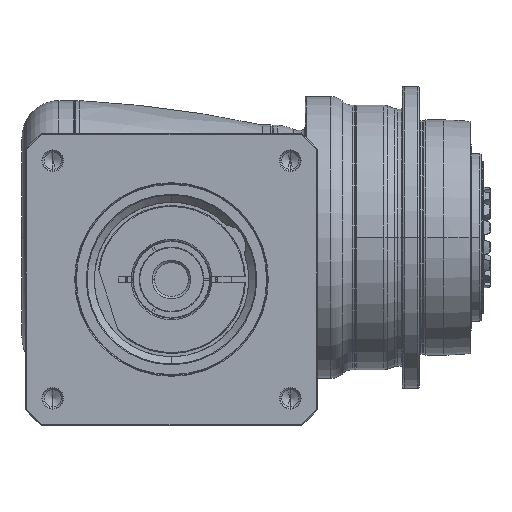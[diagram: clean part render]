
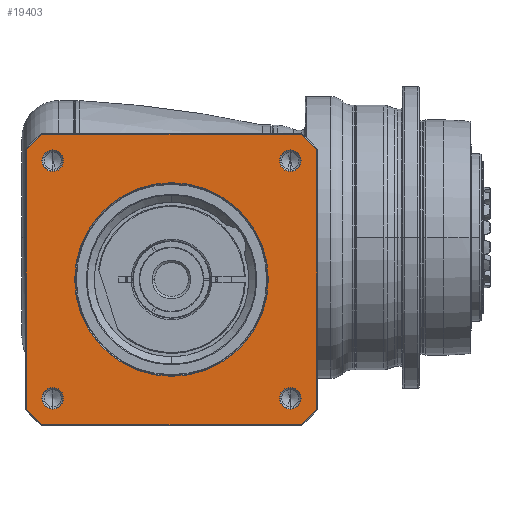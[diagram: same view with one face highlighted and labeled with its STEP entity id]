
A CAD part, front view. The second image highlights one B-rep face of the part: STEP entity #19403.
In plain terms, the highlighted planar face has unit normal (0, -1, 0) as drawn and (0, 0, 1) by its records, which use the part's own axes.
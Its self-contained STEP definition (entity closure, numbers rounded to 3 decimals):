
#18154=CARTESIAN_POINT('',(0.,0.,
76.));
#18155=DIRECTION('',(0.,0.,-1.));
#18156=DIRECTION('',(0.,-1.,0.));
#18157=AXIS2_PLACEMENT_3D('',#18154,#18155,#18156);
#18159=CARTESIAN_POINT('',(0.,0.,
76.));
#18160=DIRECTION('',(0.,0.,-1.));
#18161=DIRECTION('',(0.,1.,0.));
#18162=AXIS2_PLACEMENT_3D('',#18159,#18160,#18161);
#18164=CARTESIAN_POINT('',(0.,0.,76.));
#18165=DIRECTION('',(0.,0.,1.));
#18166=DIRECTION('',(-0.746,-0.666,0.));
#18167=AXIS2_PLACEMENT_3D('',#18164,#18165,#18166);
#18179=DIRECTION('',(1.,0.,0.));
#18180=VECTOR('',#18179,154.58);
#18181=CARTESIAN_POINT('',(-77.29,-86.5,76.));
#18182=LINE('',#18181,#18180);
#18192=CARTESIAN_POINT('',(0.,0.,76.));
#18193=DIRECTION('',(0.,0.,1.));
#18194=DIRECTION('',(0.666,-0.746,0.));
#18195=AXIS2_PLACEMENT_3D('',#18192,#18193,#18194);
#18207=DIRECTION('',(0.,1.,0.));
#18208=VECTOR('',#18207,154.58);
#18209=CARTESIAN_POINT('',(86.5,-77.29,76.));
#18210=LINE('',#18209,#18208);
#18220=CARTESIAN_POINT('',(0.,0.,76.));
#18221=DIRECTION('',(0.,0.,1.));
#18222=DIRECTION('',(0.746,0.666,0.));
#18223=AXIS2_PLACEMENT_3D('',#18220,#18221,#18222);
#18235=DIRECTION('',(-1.,0.,0.));
#18236=VECTOR('',#18235,154.58);
#18237=CARTESIAN_POINT('',(77.29,86.5,76.));
#18238=LINE('',#18237,#18236);
#18243=CARTESIAN_POINT('',(0.,0.,76.));
#18244=DIRECTION('',(0.,0.,1.));
#18245=DIRECTION('',(-0.666,0.746,0.));
#18246=AXIS2_PLACEMENT_3D('',#18243,#18244,#18245);
#18263=DIRECTION('',(0.,-1.,0.));
#18264=VECTOR('',#18263,154.58);
#18265=CARTESIAN_POINT('',(-86.5,77.29,76.));
#18266=LINE('',#18265,#18264);
#18349=CARTESIAN_POINT('',(-70.711,70.711,76.));
#18350=DIRECTION('',(0.,0.,1.));
#18351=DIRECTION('',(-1.,0.,0.));
#18352=AXIS2_PLACEMENT_3D('',#18349,#18350,#18351);
#18367=CARTESIAN_POINT('',(-70.711,70.711,76.));
#18368=DIRECTION('',(0.,0.,1.));
#18369=DIRECTION('',(1.,0.,0.));
#18370=AXIS2_PLACEMENT_3D('',#18367,#18368,#18369);
#18403=CARTESIAN_POINT('',(70.711,70.711,76.));
#18404=DIRECTION('',(0.,0.,1.));
#18405=DIRECTION('',(-1.,0.,0.));
#18406=AXIS2_PLACEMENT_3D('',#18403,#18404,#18405);
#18421=CARTESIAN_POINT('',(70.711,70.711,76.));
#18422=DIRECTION('',(0.,0.,1.));
#18423=DIRECTION('',(1.,0.,0.));
#18424=AXIS2_PLACEMENT_3D('',#18421,#18422,#18423);
#18457=CARTESIAN_POINT('',(70.711,-70.711,76.));
#18458=DIRECTION('',(0.,0.,1.));
#18459=DIRECTION('',(-1.,0.,0.));
#18460=AXIS2_PLACEMENT_3D('',#18457,#18458,#18459);
#18475=CARTESIAN_POINT('',(70.711,-70.711,76.));
#18476=DIRECTION('',(0.,0.,1.));
#18477=DIRECTION('',(1.,0.,0.));
#18478=AXIS2_PLACEMENT_3D('',#18475,#18476,#18477);
#18511=CARTESIAN_POINT('',(-70.711,-70.711,76.));
#18512=DIRECTION('',(0.,0.,1.));
#18513=DIRECTION('',(-1.,0.,0.));
#18514=AXIS2_PLACEMENT_3D('',#18511,#18512,#18513);
#18529=CARTESIAN_POINT('',(-70.711,-70.711,76.));
#18530=DIRECTION('',(0.,0.,1.));
#18531=DIRECTION('',(1.,0.,0.));
#18532=AXIS2_PLACEMENT_3D('',#18529,#18530,#18531);
#18661=CARTESIAN_POINT('',(86.5,-77.29,76.));
#18662=CARTESIAN_POINT('',(86.5,77.29,76.));
#18663=VERTEX_POINT('',#18661);
#18664=VERTEX_POINT('',#18662);
#18669=CARTESIAN_POINT('',(77.29,-86.5,76.));
#18670=VERTEX_POINT('',#18669);
#18673=CARTESIAN_POINT('',(-77.29,-86.5,76.));
#18674=VERTEX_POINT('',#18673);
#18677=CARTESIAN_POINT('',(-86.5,-77.29,76.));
#18678=VERTEX_POINT('',#18677);
#18681=CARTESIAN_POINT('',(-86.5,77.29,76.));
#18682=VERTEX_POINT('',#18681);
#18685=CARTESIAN_POINT('',(-77.29,86.5,76.));
#18686=VERTEX_POINT('',#18685);
#18689=CARTESIAN_POINT('',(77.29,86.5,76.));
#18690=VERTEX_POINT('',#18689);
#18699=CARTESIAN_POINT('',(-77.111,70.711,76.));
#18700=CARTESIAN_POINT('',(-64.311,70.711,76.));
#18701=VERTEX_POINT('',#18699);
#18702=VERTEX_POINT('',#18700);
#18725=CARTESIAN_POINT('',(77.111,70.711,76.));
#18726=CARTESIAN_POINT('',(64.311,70.711,76.));
#18727=VERTEX_POINT('',#18725);
#18728=VERTEX_POINT('',#18726);
#18733=CARTESIAN_POINT('',(77.111,-70.711,76.));
#18734=CARTESIAN_POINT('',(64.311,-70.711,76.));
#18735=VERTEX_POINT('',#18733);
#18736=VERTEX_POINT('',#18734);
#18741=CARTESIAN_POINT('',(-64.311,-70.711,76.));
#18742=CARTESIAN_POINT('',(-77.111,-70.711,76.));
#18743=VERTEX_POINT('',#18741);
#18744=VERTEX_POINT('',#18742);
#18749=CARTESIAN_POINT('',(0.,-57.65,76.));
#18750=CARTESIAN_POINT('',(0.,57.65,
76.));
#18751=VERTEX_POINT('',#18749);
#18752=VERTEX_POINT('',#18750);
#19351=CARTESIAN_POINT('',(0.,0.,76.));
#19352=DIRECTION('',(0.,0.,1.));
#19353=DIRECTION('',(1.,0.,0.));
#19354=AXIS2_PLACEMENT_3D('',#19351,#19352,#19353);
#19355=PLANE('',#19354);
#19357=ORIENTED_EDGE('',*,*,#19356,.F.);
#19359=ORIENTED_EDGE('',*,*,#19358,.F.);
#19361=ORIENTED_EDGE('',*,*,#19360,.F.);
#19363=ORIENTED_EDGE('',*,*,#19362,.F.);
#19365=ORIENTED_EDGE('',*,*,#19364,.F.);
#19367=ORIENTED_EDGE('',*,*,#19366,.F.);
#19369=ORIENTED_EDGE('',*,*,#19368,.F.);
#19371=ORIENTED_EDGE('',*,*,#19370,.F.);
#19372=EDGE_LOOP('',(#19357,#19359,#19361,#19363,#19365,#19367,#19369,#19371));
#19373=FACE_OUTER_BOUND('',#19372,.F.);
#19374=ORIENTED_EDGE('',*,*,#19341,.F.);
#19376=ORIENTED_EDGE('',*,*,#19375,.F.);
#19377=EDGE_LOOP('',(#19374,#19376));
#19378=FACE_BOUND('',#19377,.F.);
#19380=ORIENTED_EDGE('',*,*,#19379,.T.);
#19382=ORIENTED_EDGE('',*,*,#19381,.T.);
#19383=EDGE_LOOP('',(#19380,#19382));
#19384=FACE_BOUND('',#19383,.F.);
#19386=ORIENTED_EDGE('',*,*,#19385,.T.);
#19388=ORIENTED_EDGE('',*,*,#19387,.T.);
#19389=EDGE_LOOP('',(#19386,#19388));
#19390=FACE_BOUND('',#19389,.F.);
#19392=ORIENTED_EDGE('',*,*,#19391,.T.);
#19394=ORIENTED_EDGE('',*,*,#19393,.T.);
#19395=EDGE_LOOP('',(#19392,#19394));
#19396=FACE_BOUND('',#19395,.F.);
#19398=ORIENTED_EDGE('',*,*,#19397,.T.);
#19400=ORIENTED_EDGE('',*,*,#19399,.T.);
#19401=EDGE_LOOP('',(#19398,#19400));
#19402=FACE_BOUND('',#19401,.F.);
#19403=ADVANCED_FACE('',(#19373,#19378,#19384,#19390,#19396,#19402),#19355,.T.);
#18158=CIRCLE('',#18157,57.65);
#18163=CIRCLE('',#18162,57.65);
#18168=CIRCLE('',#18167,116.);
#18196=CIRCLE('',#18195,116.);
#18224=CIRCLE('',#18223,116.);
#18247=CIRCLE('',#18246,116.);
#18353=CIRCLE('',#18352,6.4);
#18371=CIRCLE('',#18370,6.4);
#18407=CIRCLE('',#18406,6.4);
#18425=CIRCLE('',#18424,6.4);
#18461=CIRCLE('',#18460,6.4);
#18479=CIRCLE('',#18478,6.4);
#18515=CIRCLE('',#18514,6.4);
#18533=CIRCLE('',#18532,6.4);
#19341=EDGE_CURVE('',#18751,#18752,#18158,.T.);
#19356=EDGE_CURVE('',#18678,#18674,#18168,.T.);
#19358=EDGE_CURVE('',#18682,#18678,#18266,.T.);
#19360=EDGE_CURVE('',#18686,#18682,#18247,.T.);
#19362=EDGE_CURVE('',#18690,#18686,#18238,.T.);
#19364=EDGE_CURVE('',#18664,#18690,#18224,.T.);
#19366=EDGE_CURVE('',#18663,#18664,#18210,.T.);
#19368=EDGE_CURVE('',#18670,#18663,#18196,.T.);
#19370=EDGE_CURVE('',#18674,#18670,#18182,.T.);
#19375=EDGE_CURVE('',#18752,#18751,#18163,.T.);
#19379=EDGE_CURVE('',#18701,#18702,#18353,.T.);
#19381=EDGE_CURVE('',#18702,#18701,#18371,.T.);
#19385=EDGE_CURVE('',#18728,#18727,#18407,.T.);
#19387=EDGE_CURVE('',#18727,#18728,#18425,.T.);
#19391=EDGE_CURVE('',#18736,#18735,#18461,.T.);
#19393=EDGE_CURVE('',#18735,#18736,#18479,.T.);
#19397=EDGE_CURVE('',#18744,#18743,#18515,.T.);
#19399=EDGE_CURVE('',#18743,#18744,#18533,.T.);
